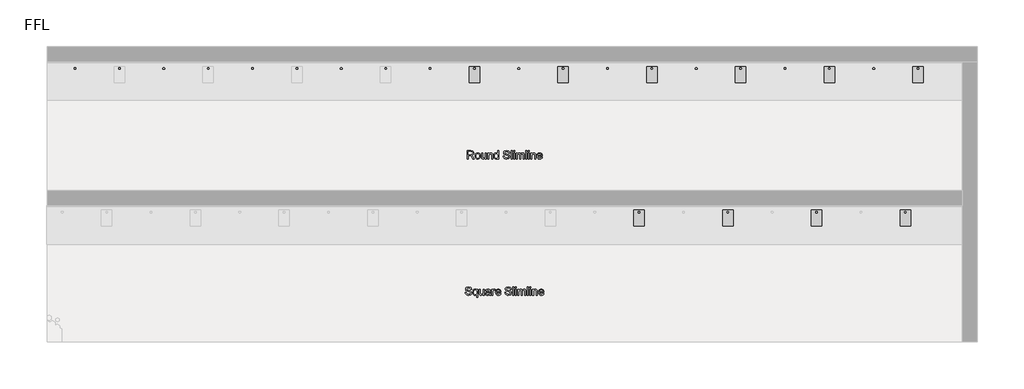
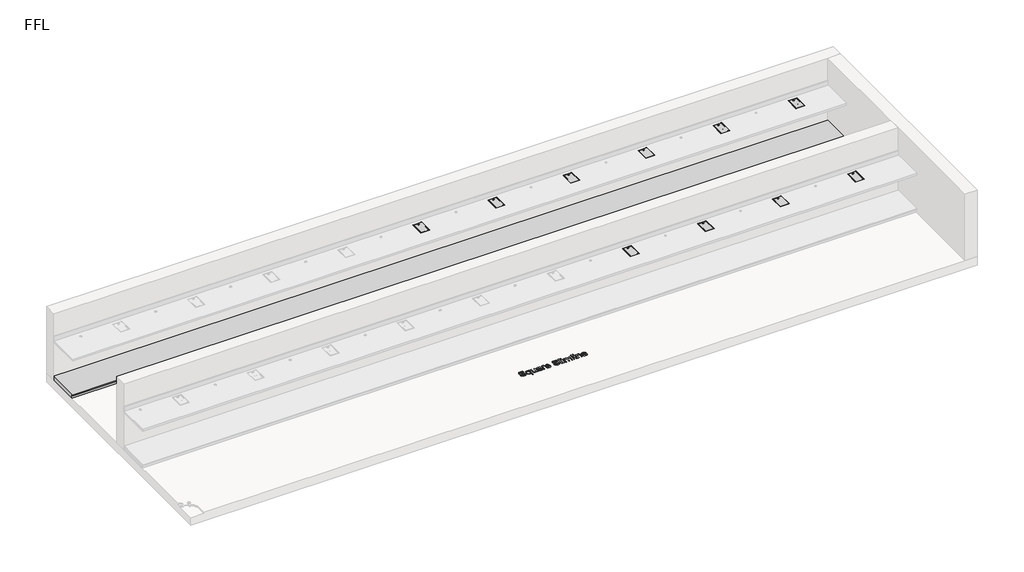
# One storey, part 3 of 3: 10 flow terminals, 2 proxies, 1 furniture element.
"""IFC4 building model written with IfcOpenShell, lengths in millimetres."""

from ifc_helpers import new_model, si_unit, origin, origin_with_axes, place, context, project, spatial, polyline, outline, extrude, transform, mapped, element, save
from components import brushed_f93afeca, generic_plinth_700mm_6c846d5c

model = new_model("IFC4")

# Units and contexts
model_context = context("Model", 3, world=origin())
ifc_project = project(units=[si_unit("LENGTHUNIT", "METRE", prefix="MILLI")], contexts=[model_context])

# Site, building, storey
site = spatial("IfcSite", under=ifc_project)
building = spatial("IfcBuilding", under=site)
storey = spatial("IfcBuildingStorey", under=building, Name="FFL", Elevation=0.0)

# Proxies
placement = place(None, origin())
element("IfcBuildingElementProxy", 1, Name="150mm Arial", ObjectType="150mm Arial", at=placement, inside=storey, context=model_context, shape_type="SweptSolid", body=[
    extrude(outline(polyline([(5012.0484471, 12088.3416219), (5012.0484471, 12236.0339296), (5075.690274, 12236.0339296), (5105.2395529, 12232.0495546), (5114.3351057, 12226.5327276), (5121.393399, 12217.9509969), (5125.9231466, 12207.3094704), (5127.4330625, 12195.6132565), (5124.9315601, 12181.0639776), (5117.4270529, 12169.0026796), (5104.6941803, 12160.1595305), (5086.5075817, 12155.2646988), (5097.0003702, 12147.3680642), (5111.9643125, 12128.3656603), (5136.5917163, 12088.3416219), (5115.1373894, 12088.3416219), (5095.9186394, 12118.9546026), (5082.0364279, 12139.2190257), (5072.2828221, 12148.792343), (5063.502774, 12152.307968), (5052.7936394, 12152.9570065), (5030.5099855, 12152.9570065), (5030.5099855, 12088.3416219), (5012.0484471, 12088.3416219)]), holes=[polyline([(5030.5099855, 12171.4185449), (5071.8321009, 12171.4185449), (5092.9078221, 12174.0327276), (5104.8789759, 12182.3981122), (5108.971524, 12194.9281603), (5107.0199014, 12203.933569), (5101.1650336, 12211.1901796), (5091.0914158, 12215.9768382), (5076.4835432, 12217.5723911), (5030.5099855, 12217.5723911), (5030.5099855, 12171.4185449)])]), origin_with_axes(), (0.0, 0.0, 1.0), 5.0),
    extrude(outline(polyline([(5152.8176779, 12142.5723911), (5156.8110673, 12168.7232324), (5168.7912355, 12187.1036411), (5183.5929182, 12196.1090497), (5201.315274, 12199.1108526), (5220.7098053, 12195.4555041), (5236.2010913, 12184.4894584), (5246.3558389, 12167.0781002), (5249.7407548, 12144.0868142), (5248.2443605, 12125.4359728), (5243.7551779, 12111.2382565), (5236.4039158, 12100.6057445), (5226.3212836, 12092.6505161), (5214.3456226, 12087.6880762), (5201.315274, 12086.0339296), (5181.6863678, 12089.6757565), (5166.2131105, 12100.6012372), (5156.166536, 12118.3776796), (5152.8176779, 12142.5723911)]), holes=[polyline([(5171.2792163, 12142.6084488), (5173.4156346, 12125.9002156), (5179.8248894, 12113.9966699), (5189.4703221, 12106.8707685), (5201.315274, 12104.495468), (5213.1061394, 12106.8842901), (5222.7335432, 12114.0507565), (5229.142798, 12126.1120546), (5231.2792163, 12143.1853719), (5229.1292764, 12159.4068262), (5222.6794567, 12171.1481122), (5213.0385312, 12178.2740137), (5201.315274, 12180.6493142), (5189.4703221, 12178.2830281), (5179.8248894, 12171.1841699), (5173.4156346, 12159.3076675), (5171.2792163, 12142.6084488)])]), origin_with_axes(), (0.0, 0.0, 1.0), 5.0),
    extrude(outline(polyline([(5339.7407548, 12088.3416219), (5339.7407548, 12106.9834488), (5325.2816202, 12091.2713094), (5306.4234471, 12086.0339296), (5289.0616682, 12089.7118142), (5277.0905144, 12098.9425834), (5271.5917163, 12112.5363334), (5270.5099855, 12129.6997949), (5270.5099855, 12196.8031603), (5288.971524, 12196.8031603), (5288.971524, 12138.3896988), (5290.0893125, 12119.5675834), (5297.3909952, 12108.5159007), (5311.1470048, 12104.495468), (5326.5616682, 12108.6060449), (5336.7479663, 12119.8019584), (5339.7407548, 12140.3728719), (5339.7407548, 12196.8031603), (5358.2022932, 12196.8031603), (5358.2022932, 12088.3416219), (5339.7407548, 12088.3416219)])), origin_with_axes(), (0.0, 0.0, 1.0), 5.0),
    extrude(outline(polyline([(5383.5869086, 12088.3416219), (5383.5869086, 12196.8031603), (5402.0484471, 12196.8031603), (5402.0484471, 12181.6589296), (5416.1650336, 12194.7478719), (5435.4378702, 12199.1108526), (5452.8717644, 12195.5952276), (5464.7708029, 12186.3644584), (5470.3056586, 12172.7887372), (5471.2792163, 12154.9401796), (5471.2792163, 12088.3416219), (5452.8176779, 12088.3416219), (5452.8176779, 12152.4521988), (5450.690274, 12168.7863334), (5443.1722452, 12177.4221507), (5430.4979663, 12180.6493142), (5419.6851658, 12178.8374151), (5410.4679182, 12173.401718), (5404.1533149, 12162.8999151), (5402.0484471, 12145.8896988), (5402.0484471, 12088.3416219), (5383.5869086, 12088.3416219)])), origin_with_axes(), (0.0, 0.0, 1.0), 5.0),
    extrude(outline(polyline([(5563.5869086, 12088.3416219), (5563.5869086, 12105.7574872), (5551.3723654, 12090.964819), (5534.4883509, 12086.0339296), (5522.5532548, 12087.8187853), (5511.627774, 12093.1733526), (5502.3789759, 12101.7235329), (5495.4739279, 12113.0952276), (5491.174048, 12126.8287012), (5489.7407548, 12142.464218), (5495.0232067, 12171.8512372), (5501.6217644, 12183.5068863), (5510.8525336, 12192.0796026), (5522.0168966, 12197.3530401), (5534.4162355, 12199.1108526), (5551.4354663, 12194.0808046), (5563.5869086, 12181.0098911), (5563.5869086, 12236.0339296), (5582.0484471, 12236.0339296), (5582.0484471, 12088.3416219), (5563.5869086, 12088.3416219)]), holes=[polyline([(5508.2022932, 12142.5363334), (5510.284625, 12125.8371146), (5516.5316202, 12113.9606122), (5525.6091442, 12106.8617541), (5536.1830625, 12104.495468), (5546.7524735, 12106.753581), (5555.6001298, 12113.5279199), (5561.5902139, 12124.9446868), (5563.5869086, 12141.1300834), (5561.5541562, 12158.8253959), (5555.455899, 12171.0940257), (5546.3828822, 12178.2604921), (5535.4258509, 12180.6493142), (5524.7437596, 12178.3551435), (5515.9907548, 12171.4726315), (5510.1494086, 12159.6502156), (5508.2022932, 12142.5363334)])]), origin_with_axes(), (0.0, 0.0, 1.0), 5.0),
    extrude(outline(polyline([(5662.8176779, 12139.1108526), (5681.2792163, 12139.1108526), (5687.2287355, 12120.6312853), (5701.7599855, 12108.948593), (5723.8994086, 12104.495468), (5743.190274, 12107.8668622), (5755.6482067, 12117.1336892), (5759.7407548, 12129.5195065), (5756.6758509, 12141.0399392), (5744.127774, 12149.4233526), (5717.2467644, 12156.4726315), (5688.3104663, 12165.5771988), (5672.6073413, 12179.3151796), (5667.4330625, 12197.6685449), (5669.0331226, 12208.4813454), (5673.8333029, 12218.5639776), (5681.7074014, 12227.1096507), (5692.5292163, 12233.3115738), (5719.8970048, 12238.3416219), (5749.1037355, 12233.0771988), (5760.299649, 12226.5777997), (5768.5748894, 12217.6084488), (5773.8122692, 12206.7280401), (5775.8946009, 12194.495468), (5757.4330625, 12194.495468), (5754.0436394, 12205.511093), (5746.9763317, 12213.4618142), (5735.9336634, 12218.2755161), (5720.6181586, 12219.8800834), (5704.9420769, 12218.2935449), (5694.1878702, 12213.5339296), (5687.9679182, 12206.5297228), (5685.8946009, 12198.2094103), (5687.3639519, 12191.1150594), (5691.7720048, 12185.4089296), (5721.9162355, 12175.0964296), (5754.5845048, 12165.8296026), (5765.1088437, 12159.1318863), (5772.4510913, 12150.8656603), (5778.2022932, 12129.9882565), (5776.5481466, 12118.6075473), (5771.5857067, 12107.9029199), (5763.517798, 12098.6901796), (5752.5472452, 12091.7851315), (5724.6205625, 12086.0339296), (5706.5331226, 12087.5844103), (5691.6458029, 12092.2358526), (5679.7873293, 12100.0062853), (5670.7864279, 12110.9137372), (5665.0081827, 12124.2009969), (5662.8176779, 12139.1108526)])), origin_with_axes(), (0.0, 0.0, 1.0), 5.0),
    extrude(outline(polyline([(5803.5869086, 12088.3416219), (5803.5869086, 12236.0339296), (5822.0484471, 12236.0339296), (5822.0484471, 12088.3416219), (5803.5869086, 12088.3416219)])), origin_with_axes(), (0.0, 0.0, 1.0), 5.0),
    extrude(outline(polyline([(5849.7407548, 12217.5723911), (5849.7407548, 12236.0339296), (5868.2022932, 12236.0339296), (5868.2022932, 12217.5723911), (5849.7407548, 12217.5723911)])), origin_with_axes(), (0.0, 0.0, 1.0), 5.0),
    extrude(outline(polyline([(5849.7407548, 12088.3416219), (5849.7407548, 12196.8031603), (5868.2022932, 12196.8031603), (5868.2022932, 12088.3416219), (5849.7407548, 12088.3416219)])), origin_with_axes(), (0.0, 0.0, 1.0), 5.0),
    extrude(outline(polyline([(5895.8946009, 12088.3416219), (5895.8946009, 12196.8031603), (5914.3561394, 12196.8031603), (5914.3561394, 12178.9546026), (5927.0484471, 12193.5759969), (5945.1133509, 12199.1108526), (5955.3807788, 12197.7000954), (5963.6109471, 12193.4678238), (5973.7792163, 12177.6565257), (5988.1842644, 12193.7472709), (6006.3753702, 12199.1108526), (6020.2530745, 12196.8797829), (6030.5159952, 12190.1865738), (6036.8576418, 12178.8509368), (6038.971524, 12162.6925834), (6038.971524, 12088.3416219), (6020.5099855, 12088.3416219), (6020.5099855, 12154.7598911), (6018.7972452, 12170.1745546), (6012.5953221, 12177.7646988), (6002.0484471, 12180.6493142), (5992.0469447, 12178.8013574), (5983.893399, 12173.2574872), (5978.4712235, 12163.6390978), (5976.6638317, 12149.5675834), (5976.6638317, 12088.3416219), (5958.2022932, 12088.3416219), (5958.2022932, 12156.8151796), (5953.9294567, 12174.6997949), (5948.2909351, 12179.1619344), (5939.9210432, 12180.6493142), (5926.2551779, 12176.682968), (5917.1686394, 12165.0723911), (5914.3561394, 12143.0411411), (5914.3561394, 12088.3416219), (5895.8946009, 12088.3416219)])), origin_with_axes(), (0.0, 0.0, 1.0), 5.0),
    extrude(outline(polyline([(6066.6638317, 12088.3416219), (6066.6638317, 12236.0339296), (6085.1253702, 12236.0339296), (6085.1253702, 12088.3416219), (6066.6638317, 12088.3416219)])), origin_with_axes(), (0.0, 0.0, 1.0), 5.0),
    extrude(outline(polyline([(6112.8176779, 12088.3416219), (6112.8176779, 12196.8031603), (6131.2792163, 12196.8031603), (6131.2792163, 12088.3416219), (6112.8176779, 12088.3416219)])), origin_with_axes(), (0.0, 0.0, 1.0), 5.0),
    extrude(outline(polyline([(6112.8176779, 12217.5723911), (6112.8176779, 12236.0339296), (6131.2792163, 12236.0339296), (6131.2792163, 12217.5723911), (6112.8176779, 12217.5723911)])), origin_with_axes(), (0.0, 0.0, 1.0), 5.0),
    extrude(outline(polyline([(6158.971524, 12088.3416219), (6158.971524, 12196.8031603), (6177.4330625, 12196.8031603), (6177.4330625, 12181.6589296), (6191.549649, 12194.7478719), (6210.8224855, 12199.1108526), (6228.2563798, 12195.5952276), (6240.1554182, 12186.3644584), (6245.690274, 12172.7887372), (6246.6638317, 12154.9401796), (6246.6638317, 12088.3416219), (6228.2022932, 12088.3416219), (6228.2022932, 12152.4521988), (6226.0748894, 12168.7863334), (6218.5568605, 12177.4221507), (6205.8825817, 12180.6493142), (6195.0697812, 12178.8374151), (6185.8525336, 12173.401718), (6179.5379303, 12162.8999151), (6177.4330625, 12145.8896988), (6177.4330625, 12088.3416219), (6158.971524, 12088.3416219)])), origin_with_axes(), (0.0, 0.0, 1.0), 5.0),
    extrude(outline(polyline([(6347.9859471, 12120.6493142), (6366.0869086, 12118.3416219), (6359.5649735, 12104.7027997), (6349.1578221, 12094.5074872), (6335.0998293, 12088.152319), (6317.6253702, 12086.0339296), (6295.9637115, 12089.6892781), (6279.2960432, 12100.6553238), (6268.6680384, 12118.2199271), (6265.1253702, 12141.6709488), (6268.7040961, 12165.9107324), (6279.440274, 12184.0387372), (6295.8825817, 12195.3428238), (6316.5796971, 12199.1108526), (6336.6322812, 12195.3518382), (6352.6554182, 12184.0747949), (6363.1617283, 12165.9828478), (6366.6638317, 12141.7791219), (6366.5556586, 12136.8031603), (6283.5869086, 12136.8031603), (6286.7825216, 12122.9840497), (6294.205899, 12112.8247949), (6304.9195408, 12106.5777997), (6317.9859471, 12104.495468), (6336.0869086, 12108.3536411), (6347.9859471, 12120.6493142)]), holes=[polyline([(6283.5869086, 12155.2646988), (6348.2022932, 12155.2646988), (6345.705298, 12165.0183046), (6340.8104663, 12171.995468), (6330.0472452, 12178.4858526), (6316.5075817, 12180.6493142), (6304.0631706, 12178.9230521), (6293.7732067, 12173.7442661), (6286.620262, 12165.6718502), (6283.5869086, 12155.2646988)])]), origin_with_axes(), (0.0, 0.0, 1.0), 5.0),
])
element("IfcBuildingElementProxy", 2, Name="150mm Arial", ObjectType="150mm Arial", at=placement, inside=storey, context=model_context, shape_type="SweptSolid", body=[
    extrude(outline(polyline([(4976.2792163, 9679.1108526), (4994.7407548, 9679.1108526), (5000.690274, 9660.6312853), (5015.221524, 9648.948593), (5037.3609471, 9644.495468), (5056.6518125, 9647.8668622), (5069.1097452, 9657.1336892), (5073.2022932, 9669.5195065), (5070.1373894, 9681.0399392), (5057.5893125, 9689.4233526), (5030.7083029, 9696.4726315), (5001.7720048, 9705.5771988), (4986.0688798, 9719.3151796), (4980.8946009, 9737.6685449), (4982.494661, 9748.4813454), (4987.2948413, 9758.5639776), (4995.1689399, 9767.1096507), (5005.9907548, 9773.3115738), (5033.3585432, 9778.3416219), (5062.565274, 9773.0771988), (5073.7611875, 9766.5777997), (5082.0364279, 9757.6084488), (5087.2738077, 9746.7280401), (5089.3561394, 9734.495468), (5070.8946009, 9734.495468), (5067.5051779, 9745.511093), (5060.4378702, 9753.4618142), (5049.3952019, 9758.2755161), (5034.0796971, 9759.8800834), (5018.4036154, 9758.2935449), (5007.6494086, 9753.5339296), (5001.4294567, 9746.5297228), (4999.3561394, 9738.2094103), (5000.8254904, 9731.1150594), (5005.2335432, 9725.4089296), (5035.377774, 9715.0964296), (5068.0460432, 9705.8296026), (5078.5703822, 9699.1318863), (5085.9126298, 9690.8656603), (5091.6638317, 9669.9882565), (5090.0096851, 9658.6075473), (5085.0472452, 9647.9029199), (5076.9793365, 9638.6901796), (5066.0087836, 9631.7851315), (5038.0821009, 9626.0339296), (5019.994661, 9627.5844103), (5005.1073413, 9632.2358526), (4993.2488678, 9640.0062853), (4984.2479663, 9650.9137372), (4978.4697211, 9664.2009969), (4976.2792163, 9679.1108526)])), origin_with_axes(), (0.0, 0.0, 1.0), 5.0),
    extrude(outline(polyline([(5183.971524, 9586.8031603), (5183.971524, 9643.1252757), (5172.252774, 9630.901718), (5156.2431586, 9626.0339296), (5138.6920769, 9629.878581), (5123.7551779, 9641.4125353), (5113.5328221, 9659.644206), (5110.1253702, 9683.5820065), (5115.534024, 9712.8247949), (5122.159625, 9724.2009969), (5131.2191202, 9732.4401796), (5141.9913557, 9737.4431844), (5153.7551779, 9739.1108526), (5170.9186394, 9733.9365738), (5183.971524, 9718.4137372), (5183.971524, 9736.8031603), (5202.4330625, 9736.8031603), (5202.4330625, 9586.8031603), (5183.971524, 9586.8031603)]), holes=[polyline([(5128.5869086, 9682.5723911), (5130.6647331, 9665.9137372), (5136.8982067, 9654.0146988), (5146.0343245, 9646.8752757), (5156.8200817, 9644.495468), (5167.1551178, 9646.7580882), (5175.9486875, 9653.5459488), (5181.9658149, 9664.9582084), (5183.971524, 9681.0940257), (5181.8576418, 9698.3431243), (5175.5159952, 9710.7154199), (5166.3257908, 9718.1658406), (5155.6662355, 9720.6493142), (5145.2049976, 9718.3371146), (5136.4655144, 9711.4005161), (5130.5565601, 9699.5690858), (5128.5869086, 9682.5723911)])]), origin_with_axes(), (0.0, 0.0, 1.0), 5.0),
    extrude(outline(polyline([(5299.3561394, 9628.3416219), (5299.3561394, 9646.9834488), (5284.8970048, 9631.2713094), (5266.0388317, 9626.0339296), (5248.6770529, 9629.7118142), (5236.705899, 9638.9425834), (5231.2071009, 9652.5363334), (5230.1253702, 9669.6997949), (5230.1253702, 9736.8031603), (5248.5869086, 9736.8031603), (5248.5869086, 9678.3896988), (5249.7046971, 9659.5675834), (5257.0063798, 9648.5159007), (5270.7623894, 9644.495468), (5286.1770529, 9648.6060449), (5296.3633509, 9659.8019584), (5299.3561394, 9680.3728719), (5299.3561394, 9736.8031603), (5317.8176779, 9736.8031603), (5317.8176779, 9628.3416219), (5299.3561394, 9628.3416219)])), origin_with_axes(), (0.0, 0.0, 1.0), 5.0),
    extrude(outline(polyline([(5412.4330625, 9642.1877757), (5394.5304182, 9629.6757565), (5374.752774, 9626.0339296), (5359.3245889, 9628.2244344), (5347.9438798, 9634.7959488), (5340.9261514, 9644.7749151), (5338.5869086, 9657.1877757), (5342.1205625, 9671.7911411), (5351.4054182, 9682.3921026), (5364.3321009, 9688.4497949), (5380.3056586, 9691.2262372), (5412.3248894, 9697.5723911), (5412.4330625, 9701.682968), (5411.1620288, 9709.9221507), (5407.3489279, 9715.3127757), (5398.8212836, 9719.3151796), (5386.940274, 9720.6493142), (5368.2623894, 9717.0976315), (5359.3561394, 9704.495468), (5340.8946009, 9706.8031603), (5348.8813798, 9724.8320065), (5364.9631105, 9735.3969103), (5389.3200817, 9739.1108526), (5411.6938798, 9735.8296026), (5424.3321009, 9727.5904199), (5429.9931586, 9715.0603719), (5430.8946009, 9698.9065257), (5430.8946009, 9675.9377757), (5431.8321009, 9643.8644584), (5435.5099855, 9628.3416219), (5417.0484471, 9628.3416219), (5412.4330625, 9642.1877757)]), holes=[polyline([(5412.4330625, 9679.1108526), (5382.6494086, 9673.4497949), (5366.7659952, 9670.4570065), (5359.5724855, 9665.589218), (5357.0484471, 9658.4858526), (5362.5472452, 9648.4978719), (5378.6830625, 9644.495468), (5397.3609471, 9648.9125353), (5409.4042163, 9659.6036411), (5412.3248894, 9673.8824872), (5412.4330625, 9679.1108526)])]), origin_with_axes(), (0.0, 0.0, 1.0), 5.0),
    extrude(outline(polyline([(5456.2792163, 9628.3416219), (5456.2792163, 9736.8031603), (5472.4330625, 9736.8031603), (5472.4330625, 9720.7574872), (5483.8994086, 9735.5411411), (5495.4378702, 9739.1108526), (5513.971524, 9733.4137372), (5507.8056586, 9716.8632565), (5494.8248894, 9720.6493142), (5484.3861875, 9717.0074872), (5477.7335432, 9706.9113334), (5474.7407548, 9685.3488334), (5474.7407548, 9628.3416219), (5456.2792163, 9628.3416219)])), origin_with_axes(), (0.0, 0.0, 1.0), 5.0),
    extrude(outline(polyline([(5601.4474855, 9660.6493142), (5619.5484471, 9658.3416219), (5613.026512, 9644.7027997), (5602.6193605, 9634.5074872), (5588.5613678, 9628.152319), (5571.0869086, 9626.0339296), (5549.42525, 9629.6892781), (5532.7575817, 9640.6553238), (5522.1295769, 9658.2199271), (5518.5869086, 9681.6709488), (5522.1656346, 9705.9107324), (5532.9018125, 9724.0387372), (5549.3441202, 9735.3428238), (5570.0412355, 9739.1108526), (5590.0938197, 9735.3518382), (5606.1169567, 9724.0747949), (5616.6232668, 9705.9828478), (5620.1253702, 9681.7791219), (5620.0171971, 9676.8031603), (5537.0484471, 9676.8031603), (5540.2440601, 9662.9840497), (5547.6674375, 9652.8247949), (5558.3810793, 9646.5777997), (5571.4474855, 9644.495468), (5589.5484471, 9648.3536411), (5601.4474855, 9660.6493142)]), holes=[polyline([(5537.0484471, 9695.2646988), (5601.6638317, 9695.2646988), (5599.1668365, 9705.0183046), (5594.2720048, 9711.995468), (5583.5087836, 9718.4858526), (5569.9691202, 9720.6493142), (5557.5247091, 9718.9230521), (5547.2347452, 9713.7442661), (5540.0818004, 9705.6718502), (5537.0484471, 9695.2646988)])]), origin_with_axes(), (0.0, 0.0, 1.0), 5.0),
    extrude(outline(polyline([(5691.6638317, 9679.1108526), (5710.1253702, 9679.1108526), (5716.0748894, 9660.6312853), (5730.6061394, 9648.948593), (5752.7455625, 9644.495468), (5772.0364279, 9647.8668622), (5784.4943605, 9657.1336892), (5788.5869086, 9669.5195065), (5785.5220048, 9681.0399392), (5772.9739279, 9689.4233526), (5746.0929182, 9696.4726315), (5717.1566202, 9705.5771988), (5701.4534952, 9719.3151796), (5696.2792163, 9737.6685449), (5697.8792764, 9748.4813454), (5702.6794567, 9758.5639776), (5710.5535553, 9767.1096507), (5721.3753702, 9773.3115738), (5748.7431586, 9778.3416219), (5777.9498894, 9773.0771988), (5789.1458029, 9766.5777997), (5797.4210432, 9757.6084488), (5802.658423, 9746.7280401), (5804.7407548, 9734.495468), (5786.2792163, 9734.495468), (5782.8897932, 9745.511093), (5775.8224855, 9753.4618142), (5764.7798173, 9758.2755161), (5749.4643125, 9759.8800834), (5733.7882307, 9758.2935449), (5723.034024, 9753.5339296), (5716.8140721, 9746.5297228), (5714.7407548, 9738.2094103), (5716.2101057, 9731.1150594), (5720.6181586, 9725.4089296), (5750.7623894, 9715.0964296), (5783.4306586, 9705.8296026), (5793.9549976, 9699.1318863), (5801.2972452, 9690.8656603), (5807.0484471, 9669.9882565), (5805.3943004, 9658.6075473), (5800.4318605, 9647.9029199), (5792.3639519, 9638.6901796), (5781.393399, 9631.7851315), (5753.4667163, 9626.0339296), (5735.3792764, 9627.5844103), (5720.4919567, 9632.2358526), (5708.6334831, 9640.0062853), (5699.6325817, 9650.9137372), (5693.8543365, 9664.2009969), (5691.6638317, 9679.1108526)])), origin_with_axes(), (0.0, 0.0, 1.0), 5.0),
    extrude(outline(polyline([(5832.4330625, 9628.3416219), (5832.4330625, 9776.0339296), (5850.8946009, 9776.0339296), (5850.8946009, 9628.3416219), (5832.4330625, 9628.3416219)])), origin_with_axes(), (0.0, 0.0, 1.0), 5.0),
    extrude(outline(polyline([(5878.5869086, 9628.3416219), (5878.5869086, 9736.8031603), (5897.0484471, 9736.8031603), (5897.0484471, 9628.3416219), (5878.5869086, 9628.3416219)])), origin_with_axes(), (0.0, 0.0, 1.0), 5.0),
    extrude(outline(polyline([(5878.5869086, 9757.5723911), (5878.5869086, 9776.0339296), (5897.0484471, 9776.0339296), (5897.0484471, 9757.5723911), (5878.5869086, 9757.5723911)])), origin_with_axes(), (0.0, 0.0, 1.0), 5.0),
    extrude(outline(polyline([(5924.7407548, 9628.3416219), (5924.7407548, 9736.8031603), (5943.2022932, 9736.8031603), (5943.2022932, 9718.9546026), (5955.8946009, 9733.5759969), (5973.9595048, 9739.1108526), (5984.2269327, 9737.7000954), (5992.4571009, 9733.4678238), (6002.6253702, 9717.6565257), (6017.0304182, 9733.7472709), (6035.221524, 9739.1108526), (6049.0992283, 9736.8797829), (6059.362149, 9730.1865738), (6065.7037956, 9718.8509368), (6067.8176779, 9702.6925834), (6067.8176779, 9628.3416219), (6049.3561394, 9628.3416219), (6049.3561394, 9694.7598911), (6047.643399, 9710.1745546), (6041.4414759, 9717.7646988), (6030.8946009, 9720.6493142), (6020.8930985, 9718.8013574), (6012.7395529, 9713.2574872), (6007.3173774, 9703.6390978), (6005.5099855, 9689.5675834), (6005.5099855, 9628.3416219), (5987.0484471, 9628.3416219), (5987.0484471, 9696.8151796), (5982.7756105, 9714.6997949), (5977.1370889, 9719.1619344), (5968.7671971, 9720.6493142), (5955.1013317, 9716.682968), (5946.0147932, 9705.0723911), (5943.2022932, 9683.0411411), (5943.2022932, 9628.3416219), (5924.7407548, 9628.3416219)])), origin_with_axes(), (0.0, 0.0, 1.0), 5.0),
    extrude(outline(polyline([(6095.5099855, 9628.3416219), (6095.5099855, 9776.0339296), (6113.971524, 9776.0339296), (6113.971524, 9628.3416219), (6095.5099855, 9628.3416219)])), origin_with_axes(), (0.0, 0.0, 1.0), 5.0),
    extrude(outline(polyline([(6141.6638317, 9628.3416219), (6141.6638317, 9736.8031603), (6160.1253702, 9736.8031603), (6160.1253702, 9628.3416219), (6141.6638317, 9628.3416219)])), origin_with_axes(), (0.0, 0.0, 1.0), 5.0),
    extrude(outline(polyline([(6141.6638317, 9757.5723911), (6141.6638317, 9776.0339296), (6160.1253702, 9776.0339296), (6160.1253702, 9757.5723911), (6141.6638317, 9757.5723911)])), origin_with_axes(), (0.0, 0.0, 1.0), 5.0),
    extrude(outline(polyline([(6187.8176779, 9628.3416219), (6187.8176779, 9736.8031603), (6206.2792163, 9736.8031603), (6206.2792163, 9721.6589296), (6220.3958029, 9734.7478719), (6239.6686394, 9739.1108526), (6257.1025336, 9735.5952276), (6269.0015721, 9726.3644584), (6274.5364279, 9712.7887372), (6275.5099855, 9694.9401796), (6275.5099855, 9628.3416219), (6257.0484471, 9628.3416219), (6257.0484471, 9692.4521988), (6254.9210432, 9708.7863334), (6247.4030144, 9717.4221507), (6234.7287355, 9720.6493142), (6223.9159351, 9718.8374151), (6214.6986875, 9713.401718), (6208.3840841, 9702.8999151), (6206.2792163, 9685.8896988), (6206.2792163, 9628.3416219), (6187.8176779, 9628.3416219)])), origin_with_axes(), (0.0, 0.0, 1.0), 5.0),
    extrude(outline(polyline([(6376.8321009, 9660.6493142), (6394.9330625, 9658.3416219), (6388.4111274, 9644.7027997), (6378.0039759, 9634.5074872), (6363.9459831, 9628.152319), (6346.471524, 9626.0339296), (6324.8098654, 9629.6892781), (6308.1421971, 9640.6553238), (6297.5141923, 9658.2199271), (6293.971524, 9681.6709488), (6297.55025, 9705.9107324), (6308.2864279, 9724.0387372), (6324.7287355, 9735.3428238), (6345.4258509, 9739.1108526), (6365.4784351, 9735.3518382), (6381.5015721, 9724.0747949), (6392.0078822, 9705.9828478), (6395.5099855, 9681.7791219), (6395.4018125, 9676.8031603), (6312.4330625, 9676.8031603), (6315.6286754, 9662.9840497), (6323.0520529, 9652.8247949), (6333.7656947, 9646.5777997), (6346.8321009, 9644.495468), (6364.9330625, 9648.3536411), (6376.8321009, 9660.6493142)]), holes=[polyline([(6312.4330625, 9695.2646988), (6377.0484471, 9695.2646988), (6374.5514519, 9705.0183046), (6369.6566202, 9711.995468), (6358.893399, 9718.4858526), (6345.3537355, 9720.6493142), (6332.9093245, 9718.9230521), (6322.6193605, 9713.7442661), (6315.4664158, 9705.6718502), (6312.4330625, 9695.2646988)])]), origin_with_axes(), (0.0, 0.0, 1.0), 5.0),
])

# Flow terminals
brushed_shape = brushed_f93afeca(model_context)
element("IfcFlowTerminal", 3, ObjectType="z_PlumFixt_Billi_Slimline Font : Brushed", at=placement, inside=storey, context=model_context, shape_type="MappedRepresentation", body=[
    mapped(brushed_shape, transform((6739.2647071, 13626.6047841, 900.0), x_axis=(1.0, 0.0, 0.0), y_axis=(0.0, 1.0, 0.0), z_axis=(0.0, 0.0, 1.0))),
])
element("IfcFlowTerminal", 4, ObjectType="z_PlumFixt_Billi_Slimline Font : Chrome", at=placement, inside=storey, context=model_context, shape_type="MappedRepresentation", body=[
    mapped(brushed_shape, transform((8339.2647071, 13626.6047841, 900.0), x_axis=(1.0, 0.0, 0.0), y_axis=(0.0, 1.0, 0.0), z_axis=(0.0, 0.0, 1.0))),
])
element("IfcFlowTerminal", 5, ObjectType="z_PlumFixt_Billi_Slimline Font : Chrome", at=placement, inside=storey, context=model_context, shape_type="MappedRepresentation", body=[
    mapped(brushed_shape, transform((8109.2647071, 11033.3893304, 900.0), x_axis=(1.0, 0.0, 0.0), y_axis=(0.0, 1.0, 0.0), z_axis=(0.0, 0.0, 1.0))),
])
element("IfcFlowTerminal", 6, ObjectType="z_PlumFixt_Billi_Slimline Font : Matte Black", at=placement, inside=storey, context=model_context, shape_type="MappedRepresentation", body=[
    mapped(brushed_shape, transform((9939.2647071, 13626.6047841, 900.0), x_axis=(1.0, 0.0, 0.0), y_axis=(0.0, 1.0, 0.0), z_axis=(0.0, 0.0, 1.0))),
])
element("IfcFlowTerminal", 7, ObjectType="z_PlumFixt_Billi_Slimline Font : Matte Black", at=placement, inside=storey, context=model_context, shape_type="MappedRepresentation", body=[
    mapped(brushed_shape, transform((9709.2647071, 11033.3893304, 900.0), x_axis=(1.0, 0.0, 0.0), y_axis=(0.0, 1.0, 0.0), z_axis=(0.0, 0.0, 1.0))),
])
element("IfcFlowTerminal", 8, ObjectType="z_PlumFixt_Billi_Slimline Font : Matte White", at=placement, inside=storey, context=model_context, shape_type="MappedRepresentation", body=[
    mapped(brushed_shape, transform((11539.2647071, 13626.6047841, 900.0), x_axis=(1.0, 0.0, 0.0), y_axis=(0.0, 1.0, 0.0), z_axis=(0.0, 0.0, 1.0))),
])
element("IfcFlowTerminal", 9, ObjectType="z_PlumFixt_Billi_Slimline Font : Matte White", at=placement, inside=storey, context=model_context, shape_type="MappedRepresentation", body=[
    mapped(brushed_shape, transform((11309.2647071, 11033.3893304, 900.0), x_axis=(1.0, 0.0, 0.0), y_axis=(0.0, 1.0, 0.0), z_axis=(0.0, 0.0, 1.0))),
])
element("IfcFlowTerminal", 10, ObjectType="z_PlumFixt_Billi_Slimline Font : Rose Gold", at=placement, inside=storey, context=model_context, shape_type="MappedRepresentation", body=[
    mapped(brushed_shape, transform((5139.2647071, 13626.6047841, 900.0), x_axis=(1.0, 0.0, 0.0), y_axis=(0.0, 1.0, 0.0), z_axis=(0.0, 0.0, 1.0))),
])
element("IfcFlowTerminal", 11, ObjectType="z_PlumFixt_Billi_Slimline Font : Rose Gold", at=placement, inside=storey, context=model_context, shape_type="MappedRepresentation", body=[
    mapped(brushed_shape, transform((13139.2647071, 13626.6047841, 900.0), x_axis=(1.0, 0.0, 0.0), y_axis=(0.0, 1.0, 0.0), z_axis=(0.0, 0.0, 1.0))),
])
element("IfcFlowTerminal", 12, ObjectType="z_PlumFixt_Billi_Slimline Font : Rose Gold", at=placement, inside=storey, context=model_context, shape_type="MappedRepresentation", body=[
    mapped(brushed_shape, transform((12909.2647071, 11033.3893304, 900.0), x_axis=(1.0, 0.0, 0.0), y_axis=(0.0, 1.0, 0.0), z_axis=(0.0, 0.0, 1.0))),
])

# Furniture
generic_plinth_700mm_shape = generic_plinth_700mm_6c846d5c(model_context)
element("IfcFurniture", 13, ObjectType="Generic Plinth : 700mm", at=placement, inside=storey, context=model_context, shape_type="MappedRepresentation", body=[
    mapped(generic_plinth_700mm_shape, transform((5671.5270022, 13848.2393304, 0.0), x_axis=(1.0, 0.0, 0.0), y_axis=(0.0, 1.0, 0.0), z_axis=(0.0, 0.0, 1.0))),
])

save(model, "model.ifc")
